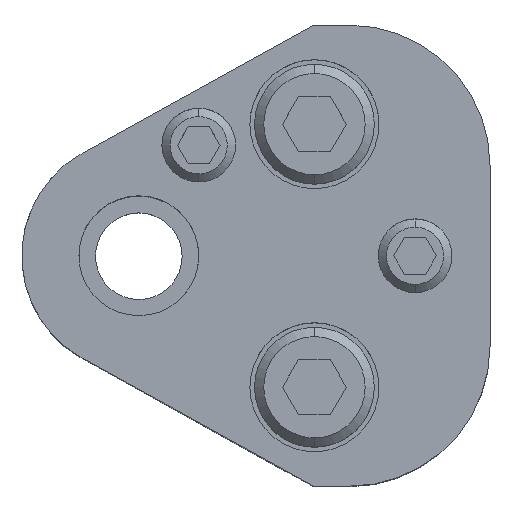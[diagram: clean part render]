
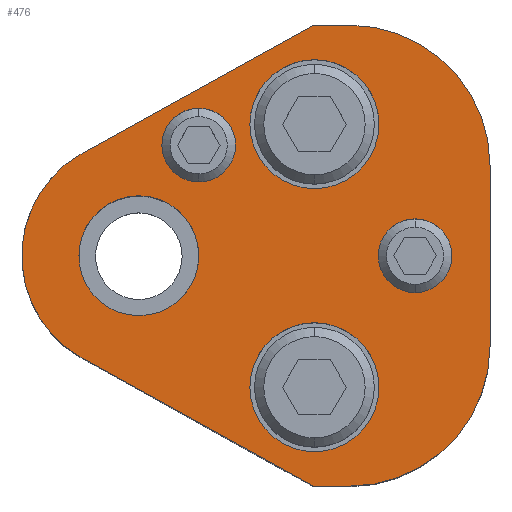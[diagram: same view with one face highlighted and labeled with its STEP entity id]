
A CAD part, top view. The second image highlights one B-rep face of the part: STEP entity #476.
In plain terms, the highlighted planar face has unit normal (0, 0, 1).
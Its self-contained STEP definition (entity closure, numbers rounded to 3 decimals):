
#213=FACE_BOUND('',#843,.T.);
#214=FACE_BOUND('',#844,.T.);
#215=FACE_BOUND('',#845,.T.);
#216=FACE_BOUND('',#846,.T.);
#217=FACE_BOUND('',#847,.T.);
#218=FACE_BOUND('',#848,.T.);
#300=CIRCLE('',#2767,15.2);
#302=CIRCLE('',#2771,15.2);
#304=CIRCLE('',#2776,4.);
#306=CIRCLE('',#2779,4.);
#308=CIRCLE('',#2782,4.);
#310=CIRCLE('',#2785,4.);
#320=CIRCLE('',#2800,12.7);
#321=CIRCLE('',#2801,7.);
#322=CIRCLE('',#2802,7.);
#323=CIRCLE('',#2803,7.);
#324=CIRCLE('',#2804,7.);
#325=CIRCLE('',#2805,6.5);
#326=CIRCLE('',#2806,6.5);
#476=ADVANCED_FACE('',(#213,#214,#215,#216,#217,#218),#592,.T.);
#592=PLANE('',#2807);
#843=EDGE_LOOP('',(#1250,#1251,#1252,#1253,#1254,#1255,#1256,#1257));
#844=EDGE_LOOP('',(#1258,#1259));
#845=EDGE_LOOP('',(#1260,#1261));
#846=EDGE_LOOP('',(#1262,#1263));
#847=EDGE_LOOP('',(#1264,#1265));
#848=EDGE_LOOP('',(#1266,#1267));
#1250=ORIENTED_EDGE('',*,*,#2066,.T.);
#1251=ORIENTED_EDGE('',*,*,#2024,.T.);
#1252=ORIENTED_EDGE('',*,*,#2028,.T.);
#1253=ORIENTED_EDGE('',*,*,#2031,.T.);
#1254=ORIENTED_EDGE('',*,*,#2034,.T.);
#1255=ORIENTED_EDGE('',*,*,#2037,.T.);
#1256=ORIENTED_EDGE('',*,*,#2040,.T.);
#1257=ORIENTED_EDGE('',*,*,#2067,.T.);
#1258=ORIENTED_EDGE('',*,*,#2068,.F.);
#1259=ORIENTED_EDGE('',*,*,#2069,.F.);
#1260=ORIENTED_EDGE('',*,*,#2070,.F.);
#1261=ORIENTED_EDGE('',*,*,#2071,.F.);
#1262=ORIENTED_EDGE('',*,*,#2052,.F.);
#1263=ORIENTED_EDGE('',*,*,#2048,.F.);
#1264=ORIENTED_EDGE('',*,*,#2046,.F.);
#1265=ORIENTED_EDGE('',*,*,#2042,.F.);
#1266=ORIENTED_EDGE('',*,*,#2072,.T.);
#1267=ORIENTED_EDGE('',*,*,#2073,.T.);
#1749=VERTEX_POINT('',#4092);
#1750=VERTEX_POINT('',#4094);
#1753=VERTEX_POINT('',#4101);
#1755=VERTEX_POINT('',#4107);
#1757=VERTEX_POINT('',#4113);
#1759=VERTEX_POINT('',#4119);
#1761=VERTEX_POINT('',#4125);
#1762=VERTEX_POINT('',#4130);
#1763=VERTEX_POINT('',#4131);
#1766=VERTEX_POINT('',#4142);
#1767=VERTEX_POINT('',#4143);
#1778=VERTEX_POINT('',#4178);
#1779=VERTEX_POINT('',#4181);
#1780=VERTEX_POINT('',#4182);
#1781=VERTEX_POINT('',#4185);
#1782=VERTEX_POINT('',#4186);
#1783=VERTEX_POINT('',#4189);
#1784=VERTEX_POINT('',#4190);
#2024=EDGE_CURVE('',#1750,#1749,#2332,.T.);
#2028=EDGE_CURVE('',#1749,#1753,#300,.T.);
#2031=EDGE_CURVE('',#1753,#1755,#2337,.T.);
#2034=EDGE_CURVE('',#1755,#1757,#302,.T.);
#2037=EDGE_CURVE('',#1757,#1759,#2341,.T.);
#2040=EDGE_CURVE('',#1759,#1761,#2344,.T.);
#2042=EDGE_CURVE('',#1762,#1763,#304,.T.);
#2046=EDGE_CURVE('',#1763,#1762,#306,.T.);
#2048=EDGE_CURVE('',#1766,#1767,#308,.T.);
#2052=EDGE_CURVE('',#1767,#1766,#310,.T.);
#2066=EDGE_CURVE('',#1778,#1750,#2354,.T.);
#2067=EDGE_CURVE('',#1761,#1778,#320,.T.);
#2068=EDGE_CURVE('',#1779,#1780,#321,.T.);
#2069=EDGE_CURVE('',#1780,#1779,#322,.T.);
#2070=EDGE_CURVE('',#1781,#1782,#323,.T.);
#2071=EDGE_CURVE('',#1782,#1781,#324,.T.);
#2072=EDGE_CURVE('',#1783,#1784,#325,.T.);
#2073=EDGE_CURVE('',#1784,#1783,#326,.T.);
#2332=LINE('',#4093,#2533);
#2337=LINE('',#4108,#2538);
#2341=LINE('',#4120,#2542);
#2344=LINE('',#4126,#2545);
#2354=LINE('',#4177,#2555);
#2533=VECTOR('',#3243,1.);
#2538=VECTOR('',#3256,1.);
#2542=VECTOR('',#3268,1.);
#2545=VECTOR('',#3273,1.);
#2555=VECTOR('',#3333,1.);
#2767=AXIS2_PLACEMENT_3D('',#4102,#3249,#3250);
#2771=AXIS2_PLACEMENT_3D('',#4114,#3261,#3262);
#2776=AXIS2_PLACEMENT_3D('',#4129,#3277,#3278);
#2779=AXIS2_PLACEMENT_3D('',#4138,#3285,#3286);
#2782=AXIS2_PLACEMENT_3D('',#4141,#3291,#3292);
#2785=AXIS2_PLACEMENT_3D('',#4150,#3299,#3300);
#2800=AXIS2_PLACEMENT_3D('',#4179,#3334,#3335);
#2801=AXIS2_PLACEMENT_3D('',#4180,#3336,#3337);
#2802=AXIS2_PLACEMENT_3D('',#4183,#3338,#3339);
#2803=AXIS2_PLACEMENT_3D('',#4184,#3340,#3341);
#2804=AXIS2_PLACEMENT_3D('',#4187,#3342,#3343);
#2805=AXIS2_PLACEMENT_3D('',#4188,#3344,#3345);
#2806=AXIS2_PLACEMENT_3D('',#4191,#3346,#3347);
#2807=AXIS2_PLACEMENT_3D('',#4192,#3348,#3349);
#3243=DIRECTION('',(1.,0.,0.));
#3249=DIRECTION('',(0.,0.,1.));
#3250=DIRECTION('',(-0.707,0.707,0.));
#3256=DIRECTION('',(0.,1.,0.));
#3261=DIRECTION('',(0.,0.,1.));
#3262=DIRECTION('',(-0.707,-0.707,0.));
#3268=DIRECTION('',(-1.,0.,0.));
#3273=DIRECTION('',(-0.875,-0.485,0.));
#3277=DIRECTION('',(0.,0.,1.));
#3278=DIRECTION('',(-1.,0.,0.));
#3285=DIRECTION('',(0.,0.,1.));
#3286=DIRECTION('',(1.,0.,0.));
#3291=DIRECTION('',(0.,0.,1.));
#3292=DIRECTION('',(-1.,0.,0.));
#3299=DIRECTION('',(0.,0.,1.));
#3300=DIRECTION('',(1.,0.,0.));
#3333=DIRECTION('',(0.875,-0.485,0.));
#3334=DIRECTION('',(0.,0.,1.));
#3335=DIRECTION('',(1.,0.,0.));
#3336=DIRECTION('',(0.,0.,1.));
#3337=DIRECTION('',(1.,0.,0.));
#3338=DIRECTION('',(0.,0.,1.));
#3339=DIRECTION('',(-1.,0.,0.));
#3340=DIRECTION('',(0.,0.,1.));
#3341=DIRECTION('',(1.,0.,0.));
#3342=DIRECTION('',(0.,0.,1.));
#3343=DIRECTION('',(-1.,0.,0.));
#3344=DIRECTION('',(0.,0.,-1.));
#3345=DIRECTION('',(-1.,0.,0.));
#3346=DIRECTION('',(0.,0.,-1.));
#3347=DIRECTION('',(1.,0.,0.));
#3348=DIRECTION('',(0.,0.,1.));
#3349=DIRECTION('',(-0.875,0.485,0.));
#4092=CARTESIAN_POINT('',(22.9,-25.,37.));
#4093=CARTESIAN_POINT('',(18.905,-25.,37.));
#4094=CARTESIAN_POINT('',(18.905,-25.,37.));
#4101=CARTESIAN_POINT('',(38.1,-9.8,37.));
#4102=CARTESIAN_POINT('',(22.9,-9.8,37.));
#4107=CARTESIAN_POINT('',(38.1,9.8,37.));
#4108=CARTESIAN_POINT('',(38.1,9.8,37.));
#4113=CARTESIAN_POINT('',(22.9,25.,37.));
#4114=CARTESIAN_POINT('',(22.9,9.8,37.));
#4119=CARTESIAN_POINT('',(18.905,25.,37.));
#4120=CARTESIAN_POINT('',(18.905,25.,37.));
#4125=CARTESIAN_POINT('',(-6.157,11.108,37.));
#4126=CARTESIAN_POINT('',(18.905,25.,37.));
#4129=CARTESIAN_POINT('',(6.5,12.,37.));
#4130=CARTESIAN_POINT('',(6.5,8.,37.));
#4131=CARTESIAN_POINT('',(6.5,16.,37.));
#4138=CARTESIAN_POINT('',(6.5,12.,37.));
#4141=CARTESIAN_POINT('',(29.97,0.,37.));
#4142=CARTESIAN_POINT('',(29.97,-4.,37.));
#4143=CARTESIAN_POINT('',(29.97,4.,37.));
#4150=CARTESIAN_POINT('',(29.97,0.,37.));
#4177=CARTESIAN_POINT('',(18.905,-25.,37.));
#4178=CARTESIAN_POINT('',(-6.157,-11.108,37.));
#4179=CARTESIAN_POINT('',(0.,0.,37.));
#4180=CARTESIAN_POINT('',(19.05,14.27,37.));
#4181=CARTESIAN_POINT('',(19.05,21.27,37.));
#4182=CARTESIAN_POINT('',(19.05,7.27,37.));
#4183=CARTESIAN_POINT('',(19.05,14.27,37.));
#4184=CARTESIAN_POINT('',(19.05,-14.27,37.));
#4185=CARTESIAN_POINT('',(19.05,-7.27,37.));
#4186=CARTESIAN_POINT('',(19.05,-21.27,37.));
#4187=CARTESIAN_POINT('',(19.05,-14.27,37.));
#4188=CARTESIAN_POINT('',(0.,0.,37.));
#4189=CARTESIAN_POINT('',(0.,6.5,37.));
#4190=CARTESIAN_POINT('',(0.,-6.5,37.));
#4191=CARTESIAN_POINT('',(0.,0.,37.));
#4192=CARTESIAN_POINT('',(-6.157,-11.108,37.));
